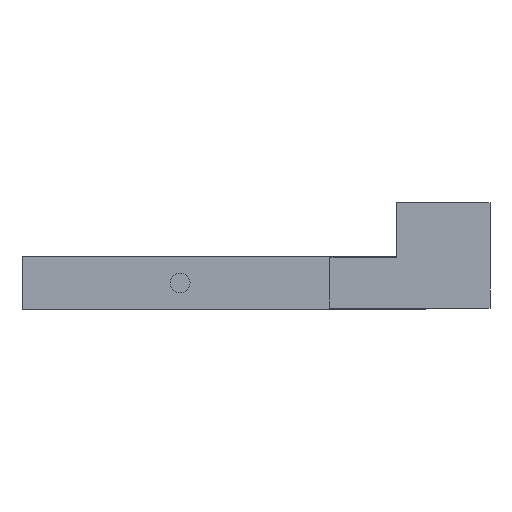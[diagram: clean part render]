
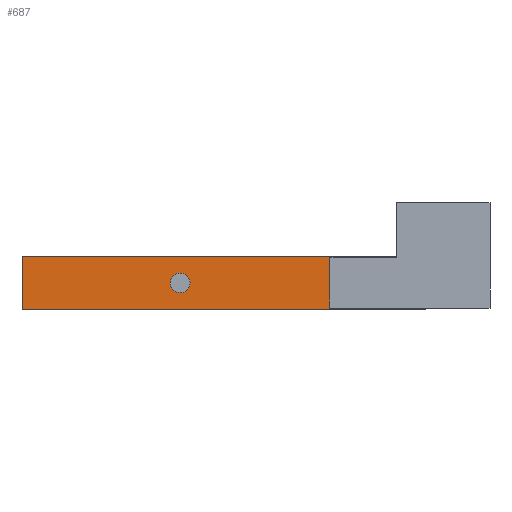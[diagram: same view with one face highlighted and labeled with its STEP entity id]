
A CAD part, left-side view. The second image highlights one B-rep face of the part: STEP entity #687.
In plain terms, the highlighted planar face has unit normal (-1, 0, 0).
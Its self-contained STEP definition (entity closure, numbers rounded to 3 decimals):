
#129=DIRECTION('',(0.,-1.,0.));
#130=VECTOR('',#129,103.);
#131=CARTESIAN_POINT('',(-225.,86.,0.));
#132=LINE('',#131,#130);
#153=DIRECTION('',(0.,0.,-1.));
#154=VECTOR('',#153,54.5);
#155=CARTESIAN_POINT('',(-225.,86.,54.5));
#156=LINE('',#155,#154);
#161=DIRECTION('',(0.,1.,0.));
#162=VECTOR('',#161,403.);
#163=CARTESIAN_POINT('',(-225.,14.,55.5));
#164=LINE('',#163,#162);
#165=CARTESIAN_POINT('',(-225.,247.,27.));
#166=DIRECTION('',(-1.,0.,0.));
#167=DIRECTION('',(0.,0.,1.));
#168=AXIS2_PLACEMENT_3D('',#165,#166,#167);
#170=CARTESIAN_POINT('',(-225.,247.,27.));
#171=DIRECTION('',(-1.,0.,0.));
#172=DIRECTION('',(0.,0.,-1.));
#173=AXIS2_PLACEMENT_3D('',#170,#171,#172);
#175=DIRECTION('',(0.,0.,1.));
#176=VECTOR('',#175,1.5);
#177=CARTESIAN_POINT('',(-225.,-17.,-1.5));
#178=LINE('',#177,#176);
#239=DIRECTION('',(0.,-1.,0.));
#240=VECTOR('',#239,72.);
#241=CARTESIAN_POINT('',(-225.,86.,54.5));
#242=LINE('',#241,#240);
#255=DIRECTION('',(0.,0.,1.));
#256=VECTOR('',#255,1.);
#257=CARTESIAN_POINT('',(-225.,14.,54.5));
#258=LINE('',#257,#256);
#389=DIRECTION('',(0.,0.,1.));
#390=VECTOR('',#389,57.);
#391=CARTESIAN_POINT('',(-225.,417.,-1.5));
#392=LINE('',#391,#390);
#409=DIRECTION('',(0.,-1.,0.));
#410=VECTOR('',#409,434.);
#411=CARTESIAN_POINT('',(-225.,417.,-1.5));
#412=LINE('',#411,#410);
#490=CARTESIAN_POINT('',(-225.,-17.,-1.5));
#492=VERTEX_POINT('',#490);
#502=CARTESIAN_POINT('',(-225.,417.,-1.5));
#504=VERTEX_POINT('',#502);
#507=CARTESIAN_POINT('',(-225.,417.,55.5));
#508=VERTEX_POINT('',#507);
#561=CARTESIAN_POINT('',(-225.,-17.,0.));
#562=VERTEX_POINT('',#561);
#565=CARTESIAN_POINT('',(-225.,86.,0.));
#566=VERTEX_POINT('',#565);
#579=CARTESIAN_POINT('',(-225.,86.,54.5));
#580=VERTEX_POINT('',#579);
#585=CARTESIAN_POINT('',(-225.,14.,54.5));
#586=VERTEX_POINT('',#585);
#589=CARTESIAN_POINT('',(-225.,14.,55.5));
#590=VERTEX_POINT('',#589);
#597=CARTESIAN_POINT('',(-225.,247.,37.65));
#598=CARTESIAN_POINT('',(-225.,247.,16.35));
#599=VERTEX_POINT('',#597);
#600=VERTEX_POINT('',#598);
#660=CARTESIAN_POINT('',(-225.,-17.,55.5));
#661=DIRECTION('',(-1.,0.,0.));
#662=DIRECTION('',(0.,0.,-1.));
#663=AXIS2_PLACEMENT_3D('',#660,#661,#662);
#664=PLANE('',#663);
#666=ORIENTED_EDGE('',*,*,#665,.F.);
#668=ORIENTED_EDGE('',*,*,#667,.F.);
#670=ORIENTED_EDGE('',*,*,#669,.T.);
#672=ORIENTED_EDGE('',*,*,#671,.F.);
#674=ORIENTED_EDGE('',*,*,#673,.F.);
#676=ORIENTED_EDGE('',*,*,#675,.F.);
#677=ORIENTED_EDGE('',*,*,#651,.T.);
#678=ORIENTED_EDGE('',*,*,#622,.T.);
#679=EDGE_LOOP('',(#666,#668,#670,#672,#674,#676,#677,#678));
#680=FACE_OUTER_BOUND('',#679,.F.);
#682=ORIENTED_EDGE('',*,*,#681,.T.);
#684=ORIENTED_EDGE('',*,*,#683,.T.);
#685=EDGE_LOOP('',(#682,#684));
#686=FACE_BOUND('',#685,.F.);
#169=CIRCLE('',#168,10.65);
#174=CIRCLE('',#173,10.65);
#622=EDGE_CURVE('',#566,#562,#132,.T.);
#651=EDGE_CURVE('',#580,#566,#156,.T.);
#665=EDGE_CURVE('',#492,#562,#178,.T.);
#667=EDGE_CURVE('',#504,#492,#412,.T.);
#669=EDGE_CURVE('',#504,#508,#392,.T.);
#671=EDGE_CURVE('',#590,#508,#164,.T.);
#673=EDGE_CURVE('',#586,#590,#258,.T.);
#675=EDGE_CURVE('',#580,#586,#242,.T.);
#681=EDGE_CURVE('',#599,#600,#169,.T.);
#683=EDGE_CURVE('',#600,#599,#174,.T.);
#687=ADVANCED_FACE('',(#680,#686),#664,.T.);
